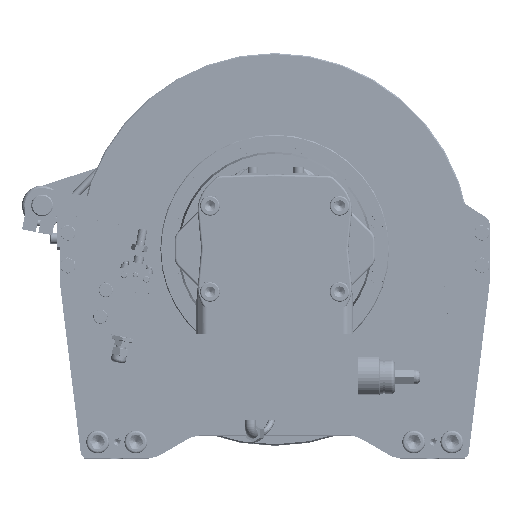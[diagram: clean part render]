
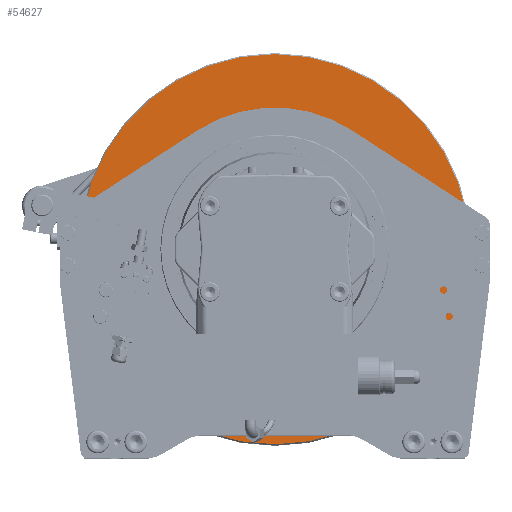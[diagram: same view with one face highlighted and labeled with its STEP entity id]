
A CAD part, top view. The second image highlights one B-rep face of the part: STEP entity #54627.
In plain terms, the highlighted planar face has unit normal (0, 0, 1).
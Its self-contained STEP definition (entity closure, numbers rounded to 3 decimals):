
#3933=FACE_BOUND('',#11849,.T.);
#5239=PLANE('',#59896);
#8010=FACE_OUTER_BOUND('',#11848,.T.);
#11848=EDGE_LOOP('',(#46620));
#11849=EDGE_LOOP('',(#46621));
#22652=CIRCLE('',#59889,112.);
#22657=CIRCLE('',#59897,179.);
#26974=VERTEX_POINT('',#99496);
#26978=VERTEX_POINT('',#99509);
#33728=EDGE_CURVE('',#26974,#26974,#22652,.T.);
#33734=EDGE_CURVE('',#26978,#26978,#22657,.T.);
#46620=ORIENTED_EDGE('',*,*,#33734,.F.);
#46621=ORIENTED_EDGE('',*,*,#33728,.T.);
#54627=ADVANCED_FACE('',(#8010,#3933),#5239,.T.);
#59889=AXIS2_PLACEMENT_3D('',#99497,#72384,#72385);
#59896=AXIS2_PLACEMENT_3D('',#99508,#72399,#72400);
#59897=AXIS2_PLACEMENT_3D('',#99510,#72401,#72402);
#72384=DIRECTION('center_axis',(0.,0.,-1.));
#72385=DIRECTION('ref_axis',(-1.,0.,0.));
#72399=DIRECTION('center_axis',(0.,0.,1.));
#72400=DIRECTION('ref_axis',(1.,0.,0.));
#72401=DIRECTION('center_axis',(0.,0.,-1.));
#72402=DIRECTION('ref_axis',(0.,-1.,0.));
#99496=CARTESIAN_POINT('',(112.,0.,-14.5));
#99497=CARTESIAN_POINT('Origin',(0.,0.,
-14.5));
#99508=CARTESIAN_POINT('Origin',(0.,0.,
-14.5));
#99509=CARTESIAN_POINT('',(0.,179.,-14.5));
#99510=CARTESIAN_POINT('Origin',(0.,0.,
-14.5));
